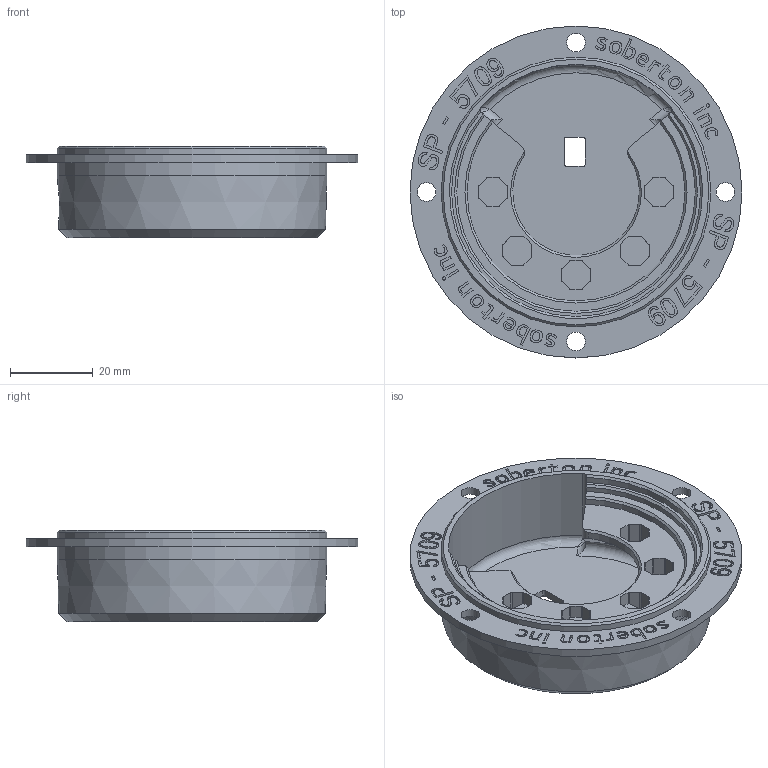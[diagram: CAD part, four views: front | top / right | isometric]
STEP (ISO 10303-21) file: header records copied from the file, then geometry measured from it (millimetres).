
FILE_DESCRIPTION(/* description */ ('Alibre Inc.'),/* implementation_level */ '2;1');
FILE_NAME(/* name */ 'export-69D57C1A-82BD-4E8F-8339-2C1B8E447488',/* time_stamp */ '2020-10-01T05:52:49-05:00',/* author */ (''),/* organization */ (''),/* preprocessor_version */ 'ST-DEVELOPER v17',/* originating_system */ 'Alibre',/* authorisation */ '');
FILE_SCHEMA (('AUTOMOTIVE_DESIGN'));
Length unit declared in the file: millimetre
Bounding box: 80 x 80 x 22 mm (x, y, z)
Volume: 31076.2 mm3; surface area: 19780.4 mm2
Topology: 1 solids, 2 shells, 1129 faces, 3122 edges, 2077 vertices
Faces by surface type: bspline 624, plane 392, cylinder 103, cone 8, torus 2
Full cylindrical faces by diameter (mm): 0.782 x1, 4.5 x4, 65 x2, 80 x1
Entity records: 36820 total; most frequent: CARTESIAN_POINT 12798, ORIENTED_EDGE 6218, EDGE_CURVE 3109, DIRECTION 2543, VERTEX_POINT 2077, VECTOR 1599, LINE 1599, B_SPLINE_CURVE_WITH_KNOTS 1296
